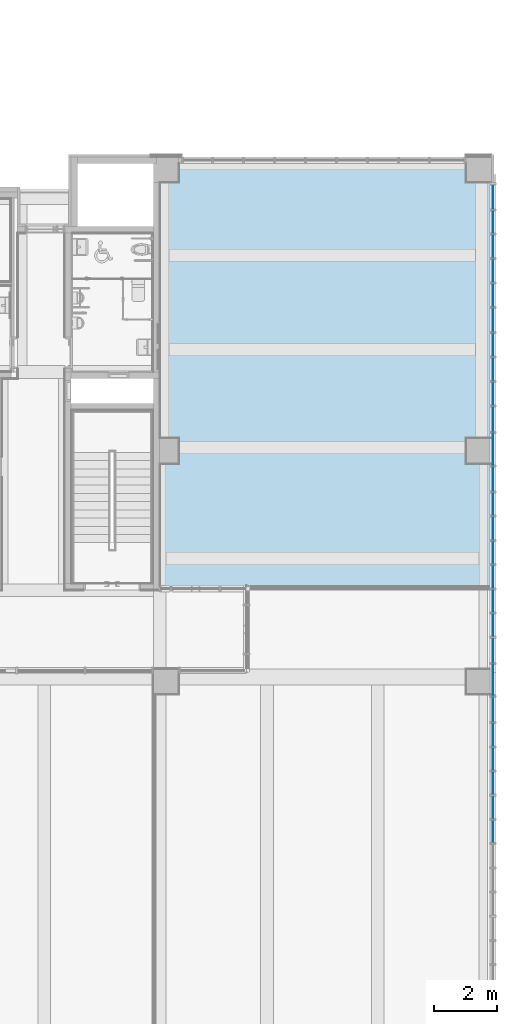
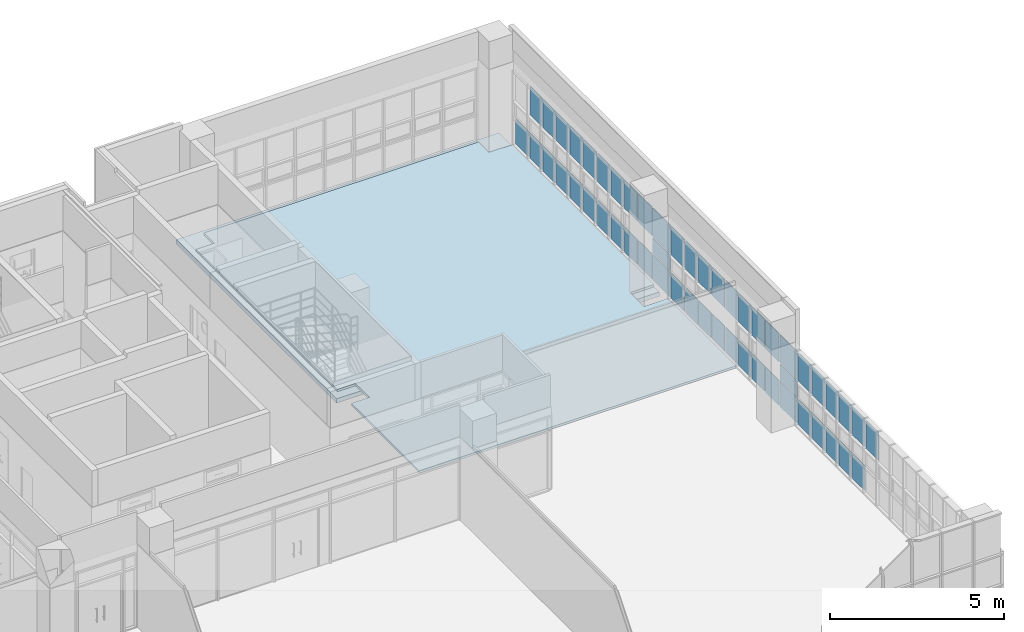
# One storey, part 36 of 76: 52 plates, 2 slabs, 1 element without a shape of its own.
"""IFC2X3 building model written with IfcOpenShell, lengths in millimetres."""

from ifc_helpers import new_model, entity, si_unit, converted_unit, derived_unit, direction, frame, frame_2d, origin, origin_2d_with_axis, place, context, subcontext, project, spatial, polyline, rectangle, outline, extrude, source, transform, mapped, material, layer, layer_set, layer_usage, type_object, type_shapes, element, aggregate, save


model = new_model("IFC2X3")

# Units and contexts
model_context = context("Model", 3, precision=0.01, world=origin(), true_north=direction((6.123031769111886e-17, 1.0)))
body_context = subcontext(model_context, "Body", "Model", "MODEL_VIEW")
ifc_project = project(units=[si_unit("LENGTHUNIT", "METRE", prefix="MILLI"), si_unit("AREAUNIT", "SQUARE_METRE"), si_unit("VOLUMEUNIT", "CUBIC_METRE"), converted_unit("PLANEANGLEUNIT", "DEGREE", entity("IfcRatioMeasure", 0.017453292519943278), si_unit("PLANEANGLEUNIT", "RADIAN"), dimensions=[0, 0, 0, 0, 0, 0, 0]), si_unit("MASSUNIT", "GRAM", prefix="KILO"), derived_unit("MASSDENSITYUNIT", [(si_unit("MASSUNIT", "GRAM", prefix="KILO"), 1), (si_unit("LENGTHUNIT", "METRE"), -3)]), derived_unit("MOMENTOFINERTIAUNIT", [(si_unit("LENGTHUNIT", "METRE"), 4)]), si_unit("TIMEUNIT", "SECOND"), si_unit("FREQUENCYUNIT", "HERTZ"), si_unit("THERMODYNAMICTEMPERATUREUNIT", "DEGREE_CELSIUS"), derived_unit("THERMALTRANSMITTANCEUNIT", [(si_unit("MASSUNIT", "GRAM", prefix="KILO"), 1), (si_unit("THERMODYNAMICTEMPERATUREUNIT", "KELVIN"), -1), (si_unit("TIMEUNIT", "SECOND"), -3)]), derived_unit("VOLUMETRICFLOWRATEUNIT", [(si_unit("LENGTHUNIT", "METRE"), 3), (si_unit("TIMEUNIT", "SECOND"), -1)]), derived_unit("MASSFLOWRATEUNIT", [(si_unit("MASSUNIT", "GRAM", prefix="KILO"), 1), (si_unit("TIMEUNIT", "SECOND"), -1)]), derived_unit("ROTATIONALFREQUENCYUNIT", [(si_unit("TIMEUNIT", "SECOND"), -1)]), si_unit("ELECTRICCURRENTUNIT", "AMPERE"), si_unit("ELECTRICVOLTAGEUNIT", "VOLT"), si_unit("POWERUNIT", "WATT"), si_unit("FORCEUNIT", "NEWTON", prefix="KILO"), si_unit("ILLUMINANCEUNIT", "LUX"), si_unit("LUMINOUSFLUXUNIT", "LUMEN"), si_unit("LUMINOUSINTENSITYUNIT", "CANDELA"), derived_unit("USERDEFINED", [(si_unit("MASSUNIT", "GRAM", prefix="KILO"), -1), (si_unit("LENGTHUNIT", "METRE"), -2), (si_unit("TIMEUNIT", "SECOND"), 3), (si_unit("LUMINOUSFLUXUNIT", "LUMEN"), 1)]), derived_unit("SOUNDPOWERUNIT", [(si_unit("MASSUNIT", "GRAM", prefix="KILO"), 1), (si_unit("LENGTHUNIT", "METRE"), 2), (si_unit("TIMEUNIT", "SECOND"), -3)]), derived_unit("SOUNDPRESSUREUNIT", [(si_unit("MASSUNIT", "GRAM", prefix="KILO"), 1), (si_unit("LENGTHUNIT", "METRE"), -1), (si_unit("TIMEUNIT", "SECOND"), -2)]), derived_unit("LINEARVELOCITYUNIT", [(si_unit("LENGTHUNIT", "METRE"), 1), (si_unit("TIMEUNIT", "SECOND"), -1)]), si_unit("PRESSUREUNIT", "PASCAL"), derived_unit("USERDEFINED", [(si_unit("LENGTHUNIT", "METRE"), -2), (si_unit("MASSUNIT", "GRAM", prefix="KILO"), 1), (si_unit("TIMEUNIT", "SECOND"), -2)]), derived_unit("LINEARFORCEUNIT", [(si_unit("MASSUNIT", "GRAM", prefix="KILO"), 1), (si_unit("LENGTHUNIT", "METRE"), 1), (si_unit("TIMEUNIT", "SECOND"), -2), (si_unit("LENGTHUNIT", "METRE"), -1)]), derived_unit("PLANARFORCEUNIT", [(si_unit("MASSUNIT", "GRAM", prefix="KILO"), 1), (si_unit("LENGTHUNIT", "METRE"), 1), (si_unit("TIMEUNIT", "SECOND"), -2), (si_unit("LENGTHUNIT", "METRE"), -2)])], contexts=[model_context])

# Site, building, storey
site_placement = place(None, frame((-14167.972527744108, -657.2125860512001, 0.0)))
site = spatial("IfcSite", under=ifc_project, at=site_placement, Name="Default", CompositionType="ELEMENT")
building_placement = place(site_placement, origin())
building = spatial("IfcBuilding", under=site, at=building_placement, Name="Sample Building", CompositionType="ELEMENT")
storey_placement = place(building_placement, frame((0.0, 0.0, 9300.0)))
storey = spatial("IfcBuildingStorey", under=building, at=storey_placement, Name="지상 3층", CompositionType="ELEMENT", Elevation=9300.000000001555)

# Slab
ifc_material_1 = material(Name="KBIMS-콘크리트")
ifc_layer_1 = layer(ifc_material_1, 150.0)
ifc_layer_set_1 = layer_set([ifc_layer_1], Name="바닥:SL111-철근콘크리트구조 바닥 150mm_S1")
ifc_layer_usage_1 = layer_usage(ifc_layer_set_1, "AXIS3", "POSITIVE", 0.0)
slab_type_1 = type_object("IfcSlabType", Name="바닥:SL111-철근콘크리트구조 바닥 150mm_S1", PredefinedType="FLOOR", material=ifc_layer_set_1)
slab_1_placement = place(storey_placement, origin())
element("IfcSlab", 1, at=slab_1_placement, inside=storey, type_object=slab_type_1, material=ifc_layer_usage_1, Name="바닥:SL111-철근콘크리트구조 바닥 150mm_S1", ObjectType="바닥:SL111-철근콘크리트구조 바닥 150mm_S1", PredefinedType="FLOOR", context=body_context, shape_type="SweptSolid", body=[
    extrude(rectangle(XDim=9200.000037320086, YDim=10699.999920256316, at=frame_2d((4.547473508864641e-12, -8.640199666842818e-12), x_axis=(1.0, 0.0))), frame((46117.95506529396, 24657.21227648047, 0.0), z_axis=(0.0, 0.0, -1.0), x_axis=(0.0, 1.0, 0.0)), (0.0, 0.0, 1.0), 150.00000000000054),
])

# Curtain wall, plates
curtain_wall_type = type_object("IfcCurtainWallType", Name="커튼월:CW112-스테인리스 스틸 커튼월", PredefinedType="NOTDEFINED")
curtain_wall_placement = place(storey_placement, frame((0.0, 0.0, -9300.0)))
curtain_wall = element("IfcCurtainWall", 2, at=curtain_wall_placement, inside=storey, type_object=curtain_wall_type, Name="커튼월:CW112-스테인리스 스틸 커튼월", ObjectType="커튼월:CW112-스테인리스 스틸 커튼월")
ifc_material_2 = material(Name="KBIMS-로이유리(코팅)")
plate_type_1 = type_object("IfcPlateType", Name="CW300-THK24.Low-e coating glass:CW300-THK24.Low-e coating glass", PredefinedType="CURTAIN_PANEL", material=ifc_material_2)
shared_shape_1 = source(origin(), body_context, "Body", "SweptSolid", [
    extrude(rectangle(XDim=24.000000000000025, YDim=783.3946888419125, at=origin_2d_with_axis()), frame((0.0, 0.0, 0.0), z_axis=(0.0, 0.0, 1.0), x_axis=(0.0, 1.0, 0.0)), (0.0, 0.0, 1.0), 875.0000000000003),
])
type_shapes(plate_type_1, [shared_shape_1])
plate_1_placement = place(curtain_wall_placement, frame((51517.96382893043, 27997.515051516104, 9430.0), z_axis=(0.0, 0.0, 1.0), x_axis=(0.0, -1.0, 0.0)))
plate_1 = element("IfcPlate", 3, at=plate_1_placement, type_object=plate_type_1, material=ifc_material_2, Name="CW300-THK24.Low-e coating glass:CW300-THK24.Low-e coating glass", ObjectType="CW300-THK24.Low-e coating glass:CW300-THK24.Low-e coating glass", context=body_context, shape_type="MappedRepresentation", body=[
    mapped(shared_shape_1, transform((0.0, 0.0, 0.0), scale=1.0)),
])
plate_type_2 = type_object("IfcPlateType", Name="CW300-THK24.Low-e coating glass:CW300-THK24.Low-e coating glass", PredefinedType="CURTAIN_PANEL", material=ifc_material_2)
shared_shape_2 = source(origin(), body_context, "Body", "SweptSolid", [
    extrude(rectangle(XDim=24.000000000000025, YDim=700.0000000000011, at=origin_2d_with_axis()), frame((0.0, 0.0, 0.0), z_axis=(0.0, 0.0, 1.0), x_axis=(0.0, 1.0, 0.0)), (0.0, 0.0, 1.0), 875.0000000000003),
])
type_shapes(plate_type_2, [shared_shape_2])
plate_2_placement = place(curtain_wall_placement, frame((51517.96382893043, 27205.817707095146, 9430.0), z_axis=(0.0, 0.0, 1.0), x_axis=(0.0, -1.0, 0.0)))
plate_2 = element("IfcPlate", 4, at=plate_2_placement, type_object=plate_type_2, material=ifc_material_2, Name="CW300-THK24.Low-e coating glass:CW300-THK24.Low-e coating glass", ObjectType="CW300-THK24.Low-e coating glass:CW300-THK24.Low-e coating glass", context=body_context, shape_type="MappedRepresentation", body=[
    mapped(shared_shape_2, transform((0.0, 0.0, 0.0), scale=1.0)),
])
plate_type_3 = type_object("IfcPlateType", Name="CW300-THK24.Low-e coating glass:CW300-THK24.Low-e coating glass", PredefinedType="CURTAIN_PANEL", material=ifc_material_2)
shared_shape_3 = source(origin(), body_context, "Body", "SweptSolid", [
    extrude(rectangle(XDim=24.000000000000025, YDim=729.0000000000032, at=origin_2d_with_axis()), frame((0.0, 0.0, 0.0), z_axis=(0.0, 0.0, 1.0), x_axis=(0.0, 1.0, 0.0)), (0.0, 0.0, 1.0), 875.0000000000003),
])
type_shapes(plate_type_3, [shared_shape_3])
plate_3_placement = place(curtain_wall_placement, frame((51517.96382893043, 26441.317707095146, 9430.0), z_axis=(0.0, 0.0, 1.0), x_axis=(0.0, -1.0, 0.0)))
plate_3 = element("IfcPlate", 5, at=plate_3_placement, type_object=plate_type_3, material=ifc_material_2, Name="CW300-THK24.Low-e coating glass:CW300-THK24.Low-e coating glass", ObjectType="CW300-THK24.Low-e coating glass:CW300-THK24.Low-e coating glass", context=body_context, shape_type="MappedRepresentation", body=[
    mapped(shared_shape_3, transform((0.0, 0.0, 0.0), scale=1.0)),
])
plate_4_placement = place(curtain_wall_placement, frame((51517.96382893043, 25662.31770709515, 9430.0), z_axis=(0.0, 0.0, 1.0), x_axis=(0.0, -1.0, 0.0)))
plate_4 = element("IfcPlate", 6, at=plate_4_placement, type_object=plate_type_3, material=ifc_material_2, Name="CW300-THK24.Low-e coating glass:CW300-THK24.Low-e coating glass", ObjectType="CW300-THK24.Low-e coating glass:CW300-THK24.Low-e coating glass", context=body_context, shape_type="MappedRepresentation", body=[
    mapped(shared_shape_3, transform((0.0, 0.0, 0.0), scale=1.0)),
])
plate_5_placement = place(curtain_wall_placement, frame((51517.96382893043, 24883.317707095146, 9430.0), z_axis=(0.0, 0.0, 1.0), x_axis=(0.0, -1.0, 0.0)))
plate_5 = element("IfcPlate", 7, at=plate_5_placement, type_object=plate_type_3, material=ifc_material_2, Name="CW300-THK24.Low-e coating glass:CW300-THK24.Low-e coating glass", ObjectType="CW300-THK24.Low-e coating glass:CW300-THK24.Low-e coating glass", context=body_context, shape_type="MappedRepresentation", body=[
    mapped(shared_shape_3, transform((0.0, 0.0, 0.0), scale=1.0)),
])
plate_6_placement = place(curtain_wall_placement, frame((51517.96382893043, 24104.31770709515, 9430.0), z_axis=(0.0, 0.0, 1.0), x_axis=(0.0, -1.0, 0.0)))
plate_6 = element("IfcPlate", 8, at=plate_6_placement, type_object=plate_type_3, material=ifc_material_2, Name="CW300-THK24.Low-e coating glass:CW300-THK24.Low-e coating glass", ObjectType="CW300-THK24.Low-e coating glass:CW300-THK24.Low-e coating glass", context=body_context, shape_type="MappedRepresentation", body=[
    mapped(shared_shape_3, transform((0.0, 0.0, 0.0), scale=1.0)),
])
plate_7_placement = place(curtain_wall_placement, frame((51517.96382893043, 23325.317707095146, 9430.0), z_axis=(0.0, 0.0, 1.0), x_axis=(0.0, -1.0, 0.0)))
plate_7 = element("IfcPlate", 9, at=plate_7_placement, type_object=plate_type_3, material=ifc_material_2, Name="CW300-THK24.Low-e coating glass:CW300-THK24.Low-e coating glass", ObjectType="CW300-THK24.Low-e coating glass:CW300-THK24.Low-e coating glass", context=body_context, shape_type="MappedRepresentation", body=[
    mapped(shared_shape_3, transform((0.0, 0.0, 0.0), scale=1.0)),
])
plate_8_placement = place(curtain_wall_placement, frame((51517.963828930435, 22546.31770709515, 9430.0), z_axis=(0.0, 0.0, 1.0), x_axis=(0.0, -1.0, 0.0)))
plate_8 = element("IfcPlate", 10, at=plate_8_placement, type_object=plate_type_3, material=ifc_material_2, Name="CW300-THK24.Low-e coating glass:CW300-THK24.Low-e coating glass", ObjectType="CW300-THK24.Low-e coating glass:CW300-THK24.Low-e coating glass", context=body_context, shape_type="MappedRepresentation", body=[
    mapped(shared_shape_3, transform((0.0, 0.0, 0.0), scale=1.0)),
])
plate_9_placement = place(curtain_wall_placement, frame((51517.963828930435, 21767.317707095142, 9430.0), z_axis=(0.0, 0.0, 1.0), x_axis=(0.0, -1.0, 0.0)))
plate_9 = element("IfcPlate", 11, at=plate_9_placement, type_object=plate_type_3, material=ifc_material_2, Name="CW300-THK24.Low-e coating glass:CW300-THK24.Low-e coating glass", ObjectType="CW300-THK24.Low-e coating glass:CW300-THK24.Low-e coating glass", context=body_context, shape_type="MappedRepresentation", body=[
    mapped(shared_shape_3, transform((0.0, 0.0, 0.0), scale=1.0)),
])
plate_type_4 = type_object("IfcPlateType", Name="CW300-THK24.Low-e coating glass:CW300-THK24.Low-e coating glass", PredefinedType="CURTAIN_PANEL", material=ifc_material_2)
shared_shape_4 = source(origin(), body_context, "Body", "SweptSolid", [
    extrude(rectangle(XDim=24.000000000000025, YDim=789.0000000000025, at=origin_2d_with_axis()), frame((0.0, 0.0, 0.0), z_axis=(0.0, 0.0, 1.0), x_axis=(0.0, 1.0, 0.0)), (0.0, 0.0, 1.0), 875.0000000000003),
])
type_shapes(plate_type_4, [shared_shape_4])
plate_10_placement = place(curtain_wall_placement, frame((51517.963828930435, 20958.317707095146, 9430.0), z_axis=(0.0, 0.0, 1.0), x_axis=(0.0, -1.0, 0.0)))
plate_10 = element("IfcPlate", 12, at=plate_10_placement, type_object=plate_type_4, material=ifc_material_2, Name="CW300-THK24.Low-e coating glass:CW300-THK24.Low-e coating glass", ObjectType="CW300-THK24.Low-e coating glass:CW300-THK24.Low-e coating glass", context=body_context, shape_type="MappedRepresentation", body=[
    mapped(shared_shape_4, transform((0.0, 0.0, 0.0), scale=1.0)),
])
plate_type_5 = type_object("IfcPlateType", Name="CW300-THK24.Low-e coating glass:CW300-THK24.Low-e coating glass", PredefinedType="CURTAIN_PANEL", material=ifc_material_2)
shared_shape_5 = source(origin(), body_context, "Body", "SweptSolid", [
    extrude(rectangle(XDim=24.000000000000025, YDim=1000.0000000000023, at=origin_2d_with_axis()), frame((0.0, 0.0, 0.0), z_axis=(0.0, 0.0, 1.0), x_axis=(0.0, 1.0, 0.0)), (0.0, 0.0, 1.0), 875.0000000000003),
])
type_shapes(plate_type_5, [shared_shape_5])
plate_11_placement = place(curtain_wall_placement, frame((51517.963828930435, 20013.817707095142, 9430.0), z_axis=(0.0, 0.0, 1.0), x_axis=(0.0, -1.0, 0.0)))
plate_11 = element("IfcPlate", 13, at=plate_11_placement, type_object=plate_type_5, material=ifc_material_2, Name="CW300-THK24.Low-e coating glass:CW300-THK24.Low-e coating glass", ObjectType="CW300-THK24.Low-e coating glass:CW300-THK24.Low-e coating glass", context=body_context, shape_type="MappedRepresentation", body=[
    mapped(shared_shape_5, transform((0.0, 0.0, 0.0), scale=1.0)),
])
plate_12_placement = place(curtain_wall_placement, frame((51517.96382893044, 12715.817707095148, 9430.0), z_axis=(0.0, 0.0, 1.0), x_axis=(0.0, -1.0, 0.0)))
plate_12 = element("IfcPlate", 14, at=plate_12_placement, type_object=plate_type_5, material=ifc_material_2, Name="CW300-THK24.Low-e coating glass:CW300-THK24.Low-e coating glass", ObjectType="CW300-THK24.Low-e coating glass:CW300-THK24.Low-e coating glass", context=body_context, shape_type="MappedRepresentation", body=[
    mapped(shared_shape_5, transform((0.0, 0.0, 0.0), scale=1.0)),
])
plate_type_6 = type_object("IfcPlateType", Name="CW300-THK24.Low-e coating glass:CW300-THK24.Low-e coating glass", PredefinedType="CURTAIN_PANEL", material=ifc_material_2)
shared_shape_6 = source(origin(), body_context, "Body", "SweptSolid", [
    extrude(rectangle(XDim=24.000000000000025, YDim=775.999999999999, at=origin_2d_with_axis()), frame((0.0, 0.0, 0.0), z_axis=(0.0, 0.0, 1.0), x_axis=(0.0, 1.0, 0.0)), (0.0, 0.0, 1.0), 875.0000000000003),
])
type_shapes(plate_type_6, [shared_shape_6])
plate_13_placement = place(curtain_wall_placement, frame((51517.963828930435, 19075.817707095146, 9430.0), z_axis=(0.0, 0.0, 1.0), x_axis=(0.0, -1.0, 0.0)))
plate_13 = element("IfcPlate", 15, at=plate_13_placement, type_object=plate_type_6, material=ifc_material_2, Name="CW300-THK24.Low-e coating glass:CW300-THK24.Low-e coating glass", ObjectType="CW300-THK24.Low-e coating glass:CW300-THK24.Low-e coating glass", context=body_context, shape_type="MappedRepresentation", body=[
    mapped(shared_shape_6, transform((0.0, 0.0, 0.0), scale=1.0)),
])
plate_14_placement = place(curtain_wall_placement, frame((51517.96382893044, 13653.817707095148, 9430.0), z_axis=(0.0, 0.0, 1.0), x_axis=(0.0, -1.0, 0.0)))
plate_14 = element("IfcPlate", 16, at=plate_14_placement, type_object=plate_type_6, material=ifc_material_2, Name="CW300-THK24.Low-e coating glass:CW300-THK24.Low-e coating glass", ObjectType="CW300-THK24.Low-e coating glass:CW300-THK24.Low-e coating glass", context=body_context, shape_type="MappedRepresentation", body=[
    mapped(shared_shape_6, transform((0.0, 0.0, 0.0), scale=1.0)),
])
plate_15_placement = place(curtain_wall_placement, frame((51517.96382893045, 11777.81770709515, 9430.0), z_axis=(0.0, 0.0, 1.0), x_axis=(0.0, -1.0, 0.0)))
plate_15 = element("IfcPlate", 17, at=plate_15_placement, type_object=plate_type_6, material=ifc_material_2, Name="CW300-THK24.Low-e coating glass:CW300-THK24.Low-e coating glass", ObjectType="CW300-THK24.Low-e coating glass:CW300-THK24.Low-e coating glass", context=body_context, shape_type="MappedRepresentation", body=[
    mapped(shared_shape_6, transform((0.0, 0.0, 0.0), scale=1.0)),
])
plate_type_7 = type_object("IfcPlateType", Name="CW300-THK24.Low-e coating glass:CW300-THK24.Low-e coating glass", PredefinedType="CURTAIN_PANEL", material=ifc_material_2)
shared_shape_7 = source(origin(), body_context, "Body", "SweptSolid", [
    extrude(rectangle(XDim=24.000000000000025, YDim=715.9999999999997, at=origin_2d_with_axis()), frame((0.0, 0.0, 0.0), z_axis=(0.0, 0.0, 1.0), x_axis=(0.0, 1.0, 0.0)), (0.0, 0.0, 1.0), 875.0000000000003),
])
type_shapes(plate_type_7, [shared_shape_7])
plate_16_placement = place(curtain_wall_placement, frame((51517.963828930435, 18279.817707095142, 9430.0), z_axis=(0.0, 0.0, 1.0), x_axis=(0.0, -1.0, 0.0)))
plate_16 = element("IfcPlate", 18, at=plate_16_placement, type_object=plate_type_7, material=ifc_material_2, Name="CW300-THK24.Low-e coating glass:CW300-THK24.Low-e coating glass", ObjectType="CW300-THK24.Low-e coating glass:CW300-THK24.Low-e coating glass", context=body_context, shape_type="MappedRepresentation", body=[
    mapped(shared_shape_7, transform((0.0, 0.0, 0.0), scale=1.0)),
])
plate_17_placement = place(curtain_wall_placement, frame((51517.963828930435, 17513.817707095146, 9430.0), z_axis=(0.0, 0.0, 1.0), x_axis=(0.0, -1.0, 0.0)))
plate_17 = element("IfcPlate", 19, at=plate_17_placement, type_object=plate_type_7, material=ifc_material_2, Name="CW300-THK24.Low-e coating glass:CW300-THK24.Low-e coating glass", ObjectType="CW300-THK24.Low-e coating glass:CW300-THK24.Low-e coating glass", context=body_context, shape_type="MappedRepresentation", body=[
    mapped(shared_shape_7, transform((0.0, 0.0, 0.0), scale=1.0)),
])
plate_18_placement = place(curtain_wall_placement, frame((51517.96382893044, 16747.817707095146, 9430.0), z_axis=(0.0, 0.0, 1.0), x_axis=(0.0, -1.0, 0.0)))
plate_18 = element("IfcPlate", 20, at=plate_18_placement, type_object=plate_type_7, material=ifc_material_2, Name="CW300-THK24.Low-e coating glass:CW300-THK24.Low-e coating glass", ObjectType="CW300-THK24.Low-e coating glass:CW300-THK24.Low-e coating glass", context=body_context, shape_type="MappedRepresentation", body=[
    mapped(shared_shape_7, transform((0.0, 0.0, 0.0), scale=1.0)),
])
plate_19_placement = place(curtain_wall_placement, frame((51517.96382893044, 15981.817707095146, 9430.0), z_axis=(0.0, 0.0, 1.0), x_axis=(0.0, -1.0, 0.0)))
plate_19 = element("IfcPlate", 21, at=plate_19_placement, type_object=plate_type_7, material=ifc_material_2, Name="CW300-THK24.Low-e coating glass:CW300-THK24.Low-e coating glass", ObjectType="CW300-THK24.Low-e coating glass:CW300-THK24.Low-e coating glass", context=body_context, shape_type="MappedRepresentation", body=[
    mapped(shared_shape_7, transform((0.0, 0.0, 0.0), scale=1.0)),
])
plate_20_placement = place(curtain_wall_placement, frame((51517.96382893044, 15215.817707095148, 9430.0), z_axis=(0.0, 0.0, 1.0), x_axis=(0.0, -1.0, 0.0)))
plate_20 = element("IfcPlate", 22, at=plate_20_placement, type_object=plate_type_7, material=ifc_material_2, Name="CW300-THK24.Low-e coating glass:CW300-THK24.Low-e coating glass", ObjectType="CW300-THK24.Low-e coating glass:CW300-THK24.Low-e coating glass", context=body_context, shape_type="MappedRepresentation", body=[
    mapped(shared_shape_7, transform((0.0, 0.0, 0.0), scale=1.0)),
])
plate_21_placement = place(curtain_wall_placement, frame((51517.96382893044, 14449.817707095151, 9430.0), z_axis=(0.0, 0.0, 1.0), x_axis=(0.0, -1.0, 0.0)))
plate_21 = element("IfcPlate", 23, at=plate_21_placement, type_object=plate_type_7, material=ifc_material_2, Name="CW300-THK24.Low-e coating glass:CW300-THK24.Low-e coating glass", ObjectType="CW300-THK24.Low-e coating glass:CW300-THK24.Low-e coating glass", context=body_context, shape_type="MappedRepresentation", body=[
    mapped(shared_shape_7, transform((0.0, 0.0, 0.0), scale=1.0)),
])
plate_22_placement = place(curtain_wall_placement, frame((51517.96382893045, 10981.817707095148, 9430.0), z_axis=(0.0, 0.0, 1.0), x_axis=(0.0, -1.0, 0.0)))
plate_22 = element("IfcPlate", 24, at=plate_22_placement, type_object=plate_type_7, material=ifc_material_2, Name="CW300-THK24.Low-e coating glass:CW300-THK24.Low-e coating glass", ObjectType="CW300-THK24.Low-e coating glass:CW300-THK24.Low-e coating glass", context=body_context, shape_type="MappedRepresentation", body=[
    mapped(shared_shape_7, transform((0.0, 0.0, 0.0), scale=1.0)),
])
plate_23_placement = place(curtain_wall_placement, frame((51517.96382893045, 10215.81770709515, 9430.0), z_axis=(0.0, 0.0, 1.0), x_axis=(0.0, -1.0, 0.0)))
plate_23 = element("IfcPlate", 25, at=plate_23_placement, type_object=plate_type_7, material=ifc_material_2, Name="CW300-THK24.Low-e coating glass:CW300-THK24.Low-e coating glass", ObjectType="CW300-THK24.Low-e coating glass:CW300-THK24.Low-e coating glass", context=body_context, shape_type="MappedRepresentation", body=[
    mapped(shared_shape_7, transform((0.0, 0.0, 0.0), scale=1.0)),
])
plate_24_placement = place(curtain_wall_placement, frame((51517.96382893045, 9449.81770709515, 9430.0), z_axis=(0.0, 0.0, 1.0), x_axis=(0.0, -1.0, 0.0)))
plate_24 = element("IfcPlate", 26, at=plate_24_placement, type_object=plate_type_7, material=ifc_material_2, Name="CW300-THK24.Low-e coating glass:CW300-THK24.Low-e coating glass", ObjectType="CW300-THK24.Low-e coating glass:CW300-THK24.Low-e coating glass", context=body_context, shape_type="MappedRepresentation", body=[
    mapped(shared_shape_7, transform((0.0, 0.0, 0.0), scale=1.0)),
])
plate_25_placement = place(curtain_wall_placement, frame((51517.96382893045, 8683.817707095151, 9430.0), z_axis=(0.0, 0.0, 1.0), x_axis=(0.0, -1.0, 0.0)))
plate_25 = element("IfcPlate", 27, at=plate_25_placement, type_object=plate_type_7, material=ifc_material_2, Name="CW300-THK24.Low-e coating glass:CW300-THK24.Low-e coating glass", ObjectType="CW300-THK24.Low-e coating glass:CW300-THK24.Low-e coating glass", context=body_context, shape_type="MappedRepresentation", body=[
    mapped(shared_shape_7, transform((0.0, 0.0, 0.0), scale=1.0)),
])
plate_type_8 = type_object("IfcPlateType", Name="CW300-THK24.Low-e coating glass:CW300-THK24.Low-e coating glass", PredefinedType="CURTAIN_PANEL", material=ifc_material_2)
shared_shape_8 = source(origin(), body_context, "Body", "SweptSolid", [
    extrude(rectangle(XDim=24.000000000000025, YDim=1000.0000000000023, at=origin_2d_with_axis()), frame((0.0, 0.0, 0.0), z_axis=(0.0, 0.0, 1.0), x_axis=(0.0, 1.0, 0.0)), (0.0, 0.0, 1.0), 549.9999999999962),
])
type_shapes(plate_type_8, [shared_shape_8])
plate_26_placement = place(curtain_wall_placement, frame((51517.963828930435, 20013.817707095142, 10355.0), z_axis=(0.0, 0.0, 1.0), x_axis=(0.0, -1.0, 0.0)))
plate_26 = element("IfcPlate", 28, at=plate_26_placement, type_object=plate_type_8, material=ifc_material_2, Name="CW300-THK24.Low-e coating glass:CW300-THK24.Low-e coating glass", ObjectType="CW300-THK24.Low-e coating glass:CW300-THK24.Low-e coating glass", context=body_context, shape_type="MappedRepresentation", body=[
    mapped(shared_shape_8, transform((0.0, 0.0, 0.0), scale=1.0)),
])
plate_27_placement = place(curtain_wall_placement, frame((51517.96382893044, 12715.817707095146, 10355.0), z_axis=(0.0, 0.0, 1.0), x_axis=(0.0, -1.0, 0.0)))
plate_27 = element("IfcPlate", 29, at=plate_27_placement, type_object=plate_type_8, material=ifc_material_2, Name="CW300-THK24.Low-e coating glass:CW300-THK24.Low-e coating glass", ObjectType="CW300-THK24.Low-e coating glass:CW300-THK24.Low-e coating glass", context=body_context, shape_type="MappedRepresentation", body=[
    mapped(shared_shape_8, transform((0.0, 0.0, 0.0), scale=1.0)),
])
plate_type_9 = type_object("IfcPlateType", Name="CW300-THK24.Low-e coating glass:CW300-THK24.Low-e coating glass", PredefinedType="CURTAIN_PANEL", material=ifc_material_2)
shared_shape_9 = source(origin(), body_context, "Body", "SweptSolid", [
    extrude(rectangle(XDim=24.000000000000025, YDim=700.0000000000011, at=origin_2d_with_axis()), frame((0.0, 0.0, 0.0), z_axis=(0.0, 0.0, 1.0), x_axis=(0.0, 1.0, 0.0)), (0.0, 0.0, 1.0), 995.0000000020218),
])
type_shapes(plate_type_9, [shared_shape_9])
plate_28_placement = place(curtain_wall_placement, frame((51517.96382893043, 27205.817707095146, 10955.0), z_axis=(0.0, 0.0, 1.0), x_axis=(0.0, -1.0, 0.0)))
plate_28 = element("IfcPlate", 30, at=plate_28_placement, type_object=plate_type_9, material=ifc_material_2, Name="CW300-THK24.Low-e coating glass:CW300-THK24.Low-e coating glass", ObjectType="CW300-THK24.Low-e coating glass:CW300-THK24.Low-e coating glass", context=body_context, shape_type="MappedRepresentation", body=[
    mapped(shared_shape_9, transform((0.0, 0.0, 0.0), scale=1.0)),
])
plate_type_10 = type_object("IfcPlateType", Name="CW300-THK24.Low-e coating glass:CW300-THK24.Low-e coating glass", PredefinedType="CURTAIN_PANEL", material=ifc_material_2)
shared_shape_10 = source(origin(), body_context, "Body", "SweptSolid", [
    extrude(rectangle(XDim=24.000000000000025, YDim=729.0000000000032, at=origin_2d_with_axis()), frame((0.0, 0.0, 0.0), z_axis=(0.0, 0.0, 1.0), x_axis=(0.0, 1.0, 0.0)), (0.0, 0.0, 1.0), 995.0000000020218),
])
type_shapes(plate_type_10, [shared_shape_10])
plate_29_placement = place(curtain_wall_placement, frame((51517.96382893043, 26441.317707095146, 10955.0), z_axis=(0.0, 0.0, 1.0), x_axis=(0.0, -1.0, 0.0)))
plate_29 = element("IfcPlate", 31, at=plate_29_placement, type_object=plate_type_10, material=ifc_material_2, Name="CW300-THK24.Low-e coating glass:CW300-THK24.Low-e coating glass", ObjectType="CW300-THK24.Low-e coating glass:CW300-THK24.Low-e coating glass", context=body_context, shape_type="MappedRepresentation", body=[
    mapped(shared_shape_10, transform((0.0, 0.0, 0.0), scale=1.0)),
])
plate_30_placement = place(curtain_wall_placement, frame((51517.96382893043, 25662.31770709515, 10955.0), z_axis=(0.0, 0.0, 1.0), x_axis=(0.0, -1.0, 0.0)))
plate_30 = element("IfcPlate", 32, at=plate_30_placement, type_object=plate_type_10, material=ifc_material_2, Name="CW300-THK24.Low-e coating glass:CW300-THK24.Low-e coating glass", ObjectType="CW300-THK24.Low-e coating glass:CW300-THK24.Low-e coating glass", context=body_context, shape_type="MappedRepresentation", body=[
    mapped(shared_shape_10, transform((0.0, 0.0, 0.0), scale=1.0)),
])
plate_31_placement = place(curtain_wall_placement, frame((51517.96382893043, 24883.317707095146, 10955.0), z_axis=(0.0, 0.0, 1.0), x_axis=(0.0, -1.0, 0.0)))
plate_31 = element("IfcPlate", 33, at=plate_31_placement, type_object=plate_type_10, material=ifc_material_2, Name="CW300-THK24.Low-e coating glass:CW300-THK24.Low-e coating glass", ObjectType="CW300-THK24.Low-e coating glass:CW300-THK24.Low-e coating glass", context=body_context, shape_type="MappedRepresentation", body=[
    mapped(shared_shape_10, transform((0.0, 0.0, 0.0), scale=1.0)),
])
plate_32_placement = place(curtain_wall_placement, frame((51517.96382893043, 24104.317707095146, 10955.0), z_axis=(0.0, 0.0, 1.0), x_axis=(0.0, -1.0, 0.0)))
plate_32 = element("IfcPlate", 34, at=plate_32_placement, type_object=plate_type_10, material=ifc_material_2, Name="CW300-THK24.Low-e coating glass:CW300-THK24.Low-e coating glass", ObjectType="CW300-THK24.Low-e coating glass:CW300-THK24.Low-e coating glass", context=body_context, shape_type="MappedRepresentation", body=[
    mapped(shared_shape_10, transform((0.0, 0.0, 0.0), scale=1.0)),
])
plate_33_placement = place(curtain_wall_placement, frame((51517.96382893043, 23325.317707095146, 10955.0), z_axis=(0.0, 0.0, 1.0), x_axis=(0.0, -1.0, 0.0)))
plate_33 = element("IfcPlate", 35, at=plate_33_placement, type_object=plate_type_10, material=ifc_material_2, Name="CW300-THK24.Low-e coating glass:CW300-THK24.Low-e coating glass", ObjectType="CW300-THK24.Low-e coating glass:CW300-THK24.Low-e coating glass", context=body_context, shape_type="MappedRepresentation", body=[
    mapped(shared_shape_10, transform((0.0, 0.0, 0.0), scale=1.0)),
])
plate_34_placement = place(curtain_wall_placement, frame((51517.963828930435, 22546.31770709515, 10955.0), z_axis=(0.0, 0.0, 1.0), x_axis=(0.0, -1.0, 0.0)))
plate_34 = element("IfcPlate", 36, at=plate_34_placement, type_object=plate_type_10, material=ifc_material_2, Name="CW300-THK24.Low-e coating glass:CW300-THK24.Low-e coating glass", ObjectType="CW300-THK24.Low-e coating glass:CW300-THK24.Low-e coating glass", context=body_context, shape_type="MappedRepresentation", body=[
    mapped(shared_shape_10, transform((0.0, 0.0, 0.0), scale=1.0)),
])
plate_35_placement = place(curtain_wall_placement, frame((51517.963828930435, 21767.31770709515, 10955.0), z_axis=(0.0, 0.0, 1.0), x_axis=(0.0, -1.0, 0.0)))
plate_35 = element("IfcPlate", 37, at=plate_35_placement, type_object=plate_type_10, material=ifc_material_2, Name="CW300-THK24.Low-e coating glass:CW300-THK24.Low-e coating glass", ObjectType="CW300-THK24.Low-e coating glass:CW300-THK24.Low-e coating glass", context=body_context, shape_type="MappedRepresentation", body=[
    mapped(shared_shape_10, transform((0.0, 0.0, 0.0), scale=1.0)),
])
plate_type_11 = type_object("IfcPlateType", Name="CW300-THK24.Low-e coating glass:CW300-THK24.Low-e coating glass", PredefinedType="CURTAIN_PANEL", material=ifc_material_2)
shared_shape_11 = source(origin(), body_context, "Body", "SweptSolid", [
    extrude(rectangle(XDim=24.000000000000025, YDim=789.0000000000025, at=origin_2d_with_axis()), frame((0.0, 0.0, 0.0), z_axis=(0.0, 0.0, 1.0), x_axis=(0.0, 1.0, 0.0)), (0.0, 0.0, 1.0), 995.0000000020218),
])
type_shapes(plate_type_11, [shared_shape_11])
plate_36_placement = place(curtain_wall_placement, frame((51517.963828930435, 20958.317707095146, 10955.0), z_axis=(0.0, 0.0, 1.0), x_axis=(0.0, -1.0, 0.0)))
plate_36 = element("IfcPlate", 38, at=plate_36_placement, type_object=plate_type_11, material=ifc_material_2, Name="CW300-THK24.Low-e coating glass:CW300-THK24.Low-e coating glass", ObjectType="CW300-THK24.Low-e coating glass:CW300-THK24.Low-e coating glass", context=body_context, shape_type="MappedRepresentation", body=[
    mapped(shared_shape_11, transform((0.0, 0.0, 0.0), scale=1.0)),
])
plate_type_12 = type_object("IfcPlateType", Name="CW300-THK24.Low-e coating glass:CW300-THK24.Low-e coating glass", PredefinedType="CURTAIN_PANEL", material=ifc_material_2)
shared_shape_12 = source(origin(), body_context, "Body", "SweptSolid", [
    extrude(rectangle(XDim=24.000000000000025, YDim=1000.0000000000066, at=origin_2d_with_axis()), frame((0.0, 0.0, 0.0), z_axis=(0.0, 0.0, 1.0), x_axis=(0.0, 1.0, 0.0)), (0.0, 0.0, 1.0), 995.0000000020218),
])
type_shapes(plate_type_12, [shared_shape_12])
plate_37_placement = place(curtain_wall_placement, frame((51517.963828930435, 20013.817707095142, 10955.0), z_axis=(0.0, 0.0, 1.0), x_axis=(0.0, -1.0, 0.0)))
plate_37 = element("IfcPlate", 39, at=plate_37_placement, type_object=plate_type_12, material=ifc_material_2, Name="CW300-THK24.Low-e coating glass:CW300-THK24.Low-e coating glass", ObjectType="CW300-THK24.Low-e coating glass:CW300-THK24.Low-e coating glass", context=body_context, shape_type="MappedRepresentation", body=[
    mapped(shared_shape_12, transform((0.0, 0.0, 0.0), scale=1.0)),
])
plate_38_placement = place(curtain_wall_placement, frame((51517.96382893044, 12715.817707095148, 10955.0), z_axis=(0.0, 0.0, 1.0), x_axis=(0.0, -1.0, 0.0)))
plate_38 = element("IfcPlate", 40, at=plate_38_placement, type_object=plate_type_12, material=ifc_material_2, Name="CW300-THK24.Low-e coating glass:CW300-THK24.Low-e coating glass", ObjectType="CW300-THK24.Low-e coating glass:CW300-THK24.Low-e coating glass", context=body_context, shape_type="MappedRepresentation", body=[
    mapped(shared_shape_12, transform((0.0, 0.0, 0.0), scale=1.0)),
])
plate_type_13 = type_object("IfcPlateType", Name="CW300-THK24.Low-e coating glass:CW300-THK24.Low-e coating glass", PredefinedType="CURTAIN_PANEL", material=ifc_material_2)
shared_shape_13 = source(origin(), body_context, "Body", "SweptSolid", [
    extrude(rectangle(XDim=24.000000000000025, YDim=775.9999999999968, at=origin_2d_with_axis()), frame((0.0, 0.0, 0.0), z_axis=(0.0, 0.0, 1.0), x_axis=(0.0, 1.0, 0.0)), (0.0, 0.0, 1.0), 995.0000000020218),
])
type_shapes(plate_type_13, [shared_shape_13])
plate_39_placement = place(curtain_wall_placement, frame((51517.963828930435, 19075.817707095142, 10955.0), z_axis=(0.0, 0.0, 1.0), x_axis=(0.0, -1.0, 0.0)))
plate_39 = element("IfcPlate", 41, at=plate_39_placement, type_object=plate_type_13, material=ifc_material_2, Name="CW300-THK24.Low-e coating glass:CW300-THK24.Low-e coating glass", ObjectType="CW300-THK24.Low-e coating glass:CW300-THK24.Low-e coating glass", context=body_context, shape_type="MappedRepresentation", body=[
    mapped(shared_shape_13, transform((0.0, 0.0, 0.0), scale=1.0)),
])
plate_40_placement = place(curtain_wall_placement, frame((51517.96382893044, 13653.817707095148, 10955.0), z_axis=(0.0, 0.0, 1.0), x_axis=(0.0, -1.0, 0.0)))
plate_40 = element("IfcPlate", 42, at=plate_40_placement, type_object=plate_type_13, material=ifc_material_2, Name="CW300-THK24.Low-e coating glass:CW300-THK24.Low-e coating glass", ObjectType="CW300-THK24.Low-e coating glass:CW300-THK24.Low-e coating glass", context=body_context, shape_type="MappedRepresentation", body=[
    mapped(shared_shape_13, transform((0.0, 0.0, 0.0), scale=1.0)),
])
plate_41_placement = place(curtain_wall_placement, frame((51517.96382893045, 11777.81770709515, 10955.0), z_axis=(0.0, 0.0, 1.0), x_axis=(0.0, -1.0, 0.0)))
plate_41 = element("IfcPlate", 43, at=plate_41_placement, type_object=plate_type_13, material=ifc_material_2, Name="CW300-THK24.Low-e coating glass:CW300-THK24.Low-e coating glass", ObjectType="CW300-THK24.Low-e coating glass:CW300-THK24.Low-e coating glass", context=body_context, shape_type="MappedRepresentation", body=[
    mapped(shared_shape_13, transform((0.0, 0.0, 0.0), scale=1.0)),
])
plate_type_14 = type_object("IfcPlateType", Name="CW300-THK24.Low-e coating glass:CW300-THK24.Low-e coating glass", PredefinedType="CURTAIN_PANEL", material=ifc_material_2)
shared_shape_14 = source(origin(), body_context, "Body", "SweptSolid", [
    extrude(rectangle(XDim=24.000000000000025, YDim=715.9999999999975, at=origin_2d_with_axis()), frame((0.0, 0.0, 0.0), z_axis=(0.0, 0.0, 1.0), x_axis=(0.0, 1.0, 0.0)), (0.0, 0.0, 1.0), 995.0000000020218),
])
type_shapes(plate_type_14, [shared_shape_14])
plate_42_placement = place(curtain_wall_placement, frame((51517.963828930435, 18279.817707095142, 10955.0), z_axis=(0.0, 0.0, 1.0), x_axis=(0.0, -1.0, 0.0)))
plate_42 = element("IfcPlate", 44, at=plate_42_placement, type_object=plate_type_14, material=ifc_material_2, Name="CW300-THK24.Low-e coating glass:CW300-THK24.Low-e coating glass", ObjectType="CW300-THK24.Low-e coating glass:CW300-THK24.Low-e coating glass", context=body_context, shape_type="MappedRepresentation", body=[
    mapped(shared_shape_14, transform((0.0, 0.0, 0.0), scale=1.0)),
])
plate_43_placement = place(curtain_wall_placement, frame((51517.963828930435, 17513.817707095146, 10955.0), z_axis=(0.0, 0.0, 1.0), x_axis=(0.0, -1.0, 0.0)))
plate_43 = element("IfcPlate", 45, at=plate_43_placement, type_object=plate_type_14, material=ifc_material_2, Name="CW300-THK24.Low-e coating glass:CW300-THK24.Low-e coating glass", ObjectType="CW300-THK24.Low-e coating glass:CW300-THK24.Low-e coating glass", context=body_context, shape_type="MappedRepresentation", body=[
    mapped(shared_shape_14, transform((0.0, 0.0, 0.0), scale=1.0)),
])
plate_44_placement = place(curtain_wall_placement, frame((51517.96382893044, 16747.817707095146, 10955.0), z_axis=(0.0, 0.0, 1.0), x_axis=(0.0, -1.0, 0.0)))
plate_44 = element("IfcPlate", 46, at=plate_44_placement, type_object=plate_type_14, material=ifc_material_2, Name="CW300-THK24.Low-e coating glass:CW300-THK24.Low-e coating glass", ObjectType="CW300-THK24.Low-e coating glass:CW300-THK24.Low-e coating glass", context=body_context, shape_type="MappedRepresentation", body=[
    mapped(shared_shape_14, transform((0.0, 0.0, 0.0), scale=1.0)),
])
plate_45_placement = place(curtain_wall_placement, frame((51517.96382893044, 15981.817707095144, 10955.0), z_axis=(0.0, 0.0, 1.0), x_axis=(0.0, -1.0, 0.0)))
plate_45 = element("IfcPlate", 47, at=plate_45_placement, type_object=plate_type_14, material=ifc_material_2, Name="CW300-THK24.Low-e coating glass:CW300-THK24.Low-e coating glass", ObjectType="CW300-THK24.Low-e coating glass:CW300-THK24.Low-e coating glass", context=body_context, shape_type="MappedRepresentation", body=[
    mapped(shared_shape_14, transform((0.0, 0.0, 0.0), scale=1.0)),
])
plate_46_placement = place(curtain_wall_placement, frame((51517.96382893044, 15215.817707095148, 10955.0), z_axis=(0.0, 0.0, 1.0), x_axis=(0.0, -1.0, 0.0)))
plate_46 = element("IfcPlate", 48, at=plate_46_placement, type_object=plate_type_14, material=ifc_material_2, Name="CW300-THK24.Low-e coating glass:CW300-THK24.Low-e coating glass", ObjectType="CW300-THK24.Low-e coating glass:CW300-THK24.Low-e coating glass", context=body_context, shape_type="MappedRepresentation", body=[
    mapped(shared_shape_14, transform((0.0, 0.0, 0.0), scale=1.0)),
])
plate_47_placement = place(curtain_wall_placement, frame((51517.96382893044, 14449.817707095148, 10955.0), z_axis=(0.0, 0.0, 1.0), x_axis=(0.0, -1.0, 0.0)))
plate_47 = element("IfcPlate", 49, at=plate_47_placement, type_object=plate_type_14, material=ifc_material_2, Name="CW300-THK24.Low-e coating glass:CW300-THK24.Low-e coating glass", ObjectType="CW300-THK24.Low-e coating glass:CW300-THK24.Low-e coating glass", context=body_context, shape_type="MappedRepresentation", body=[
    mapped(shared_shape_14, transform((0.0, 0.0, 0.0), scale=1.0)),
])
plate_48_placement = place(curtain_wall_placement, frame((51517.96382893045, 10981.817707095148, 10955.0), z_axis=(0.0, 0.0, 1.0), x_axis=(0.0, -1.0, 0.0)))
plate_48 = element("IfcPlate", 50, at=plate_48_placement, type_object=plate_type_14, material=ifc_material_2, Name="CW300-THK24.Low-e coating glass:CW300-THK24.Low-e coating glass", ObjectType="CW300-THK24.Low-e coating glass:CW300-THK24.Low-e coating glass", context=body_context, shape_type="MappedRepresentation", body=[
    mapped(shared_shape_14, transform((0.0, 0.0, 0.0), scale=1.0)),
])
plate_49_placement = place(curtain_wall_placement, frame((51517.96382893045, 10215.81770709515, 10955.0), z_axis=(0.0, 0.0, 1.0), x_axis=(0.0, -1.0, 0.0)))
plate_49 = element("IfcPlate", 51, at=plate_49_placement, type_object=plate_type_14, material=ifc_material_2, Name="CW300-THK24.Low-e coating glass:CW300-THK24.Low-e coating glass", ObjectType="CW300-THK24.Low-e coating glass:CW300-THK24.Low-e coating glass", context=body_context, shape_type="MappedRepresentation", body=[
    mapped(shared_shape_14, transform((0.0, 0.0, 0.0), scale=1.0)),
])
plate_50_placement = place(curtain_wall_placement, frame((51517.96382893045, 9449.81770709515, 10955.0), z_axis=(0.0, 0.0, 1.0), x_axis=(0.0, -1.0, 0.0)))
plate_50 = element("IfcPlate", 52, at=plate_50_placement, type_object=plate_type_14, material=ifc_material_2, Name="CW300-THK24.Low-e coating glass:CW300-THK24.Low-e coating glass", ObjectType="CW300-THK24.Low-e coating glass:CW300-THK24.Low-e coating glass", context=body_context, shape_type="MappedRepresentation", body=[
    mapped(shared_shape_14, transform((0.0, 0.0, 0.0), scale=1.0)),
])
plate_51_placement = place(curtain_wall_placement, frame((51517.96382893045, 8683.817707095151, 10955.0), z_axis=(0.0, 0.0, 1.0), x_axis=(0.0, -1.0, 0.0)))
plate_51 = element("IfcPlate", 53, at=plate_51_placement, type_object=plate_type_14, material=ifc_material_2, Name="CW300-THK24.Low-e coating glass:CW300-THK24.Low-e coating glass", ObjectType="CW300-THK24.Low-e coating glass:CW300-THK24.Low-e coating glass", context=body_context, shape_type="MappedRepresentation", body=[
    mapped(shared_shape_14, transform((0.0, 0.0, 0.0), scale=1.0)),
])
plate_52_placement = place(curtain_wall_placement, frame((51517.96382893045, 7917.817707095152, 10955.0), z_axis=(0.0, 0.0, 1.0), x_axis=(0.0, -1.0, 0.0)))
plate_52 = element("IfcPlate", 54, at=plate_52_placement, type_object=plate_type_14, material=ifc_material_2, Name="CW300-THK24.Low-e coating glass:CW300-THK24.Low-e coating glass", ObjectType="CW300-THK24.Low-e coating glass:CW300-THK24.Low-e coating glass", context=body_context, shape_type="MappedRepresentation", body=[
    mapped(shared_shape_14, transform((0.0, 0.0, 0.0), scale=1.0)),
])
aggregate(curtain_wall, [plate_1, plate_2, plate_3, plate_4, plate_5, plate_6, plate_7, plate_8, plate_9, plate_10, plate_11, plate_13, plate_16, plate_17, plate_18, plate_19, plate_20, plate_21, plate_14, plate_12, plate_15, plate_22, plate_23, plate_24, plate_25, plate_26, plate_27, plate_28, plate_29, plate_30, plate_31, plate_32, plate_33, plate_34, plate_35, plate_36, plate_37, plate_39, plate_42, plate_43, plate_44, plate_45, plate_46, plate_47, plate_40, plate_38, plate_41, plate_48, plate_49, plate_50, plate_51, plate_52])

# Slab
ifc_material_3 = material(Name="SL341-테라조 바닥 (바탕48mm, 마감32mm)")
ifc_layer_2 = layer(ifc_material_3, 80.0)
ifc_layer_set_2 = layer_set([ifc_layer_2], Name="바닥:A1-14-06B-테라조타일 (80mm)")
ifc_layer_usage_2 = layer_usage(ifc_layer_set_2, "AXIS3", "POSITIVE", 0.0)
slab_type_2 = type_object("IfcSlabType", Name="바닥:A1-14-06B-테라조타일 (80mm)", PredefinedType="FLOOR", material=ifc_layer_set_2)
slab_2_placement = place(storey_placement, origin())
element("IfcSlab", 55, at=slab_2_placement, inside=storey, type_object=slab_type_2, material=ifc_layer_usage_2, Name="바닥:A1-14-06B-테라조타일 (80mm)", ObjectType="바닥:A1-14-06B-테라조타일 (80mm)", PredefinedType="FLOOR", context=body_context, shape_type="SweptSolid", body=[
    extrude(outline(polyline([(-2324.9956739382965, -5200.005432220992), (5775.004326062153, -5200.005432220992), (5775.004326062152, -4599.996739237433), (6375.004313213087, -4599.996739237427), (6375.004313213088, 4500.011984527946), (5775.00441400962, 4500.0119845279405), (5775.00441400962, 5299.985795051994), (-2324.99567393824, 5299.985795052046), (-2324.99567393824, 4500.011984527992), (-3124.9956739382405, 4500.011984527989), (-3124.9956739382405, 5299.994598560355), (-7025.030357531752, 5299.994598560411), (-7025.03035753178, -5200.005432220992), (-3124.9956739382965, -5200.005432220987), (-3124.995673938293, -4599.996758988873), (-2324.9956739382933, -4599.9967589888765), (-2324.9956739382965, -5200.005432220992)])), frame((46167.96923037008, 22682.207981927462, 80.0), z_axis=(0.0, 0.0, -1.0), x_axis=(0.0, 1.0, 0.0)), (0.0, 0.0, 1.0), 80.00000000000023),
])

save(model, "model.ifc")
